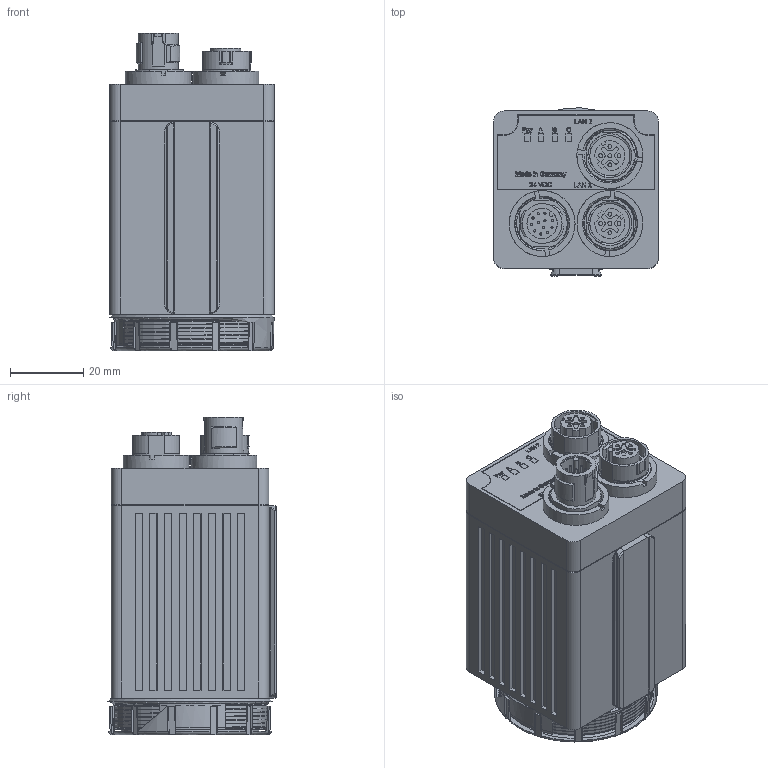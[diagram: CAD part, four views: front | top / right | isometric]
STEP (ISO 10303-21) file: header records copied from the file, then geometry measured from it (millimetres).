
FILE_DESCRIPTION(/* description */ (''),/* implementation_level */ '2;1');
FILE_NAME(/* name */ 'VISOR XE C-Mount.stp',/* time_stamp */ '2024-11-18T10:48:34+01:00',/* author */ ('SensoPart'),/* organization */ ('SensoPart'),/* preprocessor_version */ 'ST-DEVELOPER v19.2',/* originating_system */ 'Autodesk Inventor 2023',/* authorisation */ '');
FILE_SCHEMA (('AUTOMOTIVE_DESIGN { 1 0 10303 214 3 1 1 }'));
Products named in the file (1): GH-ENG-0044651
Bounding box: 45 x 45.92 x 86.78 mm (x, y, z)
Volume: 133381.4 mm3; surface area: 27158.2 mm2
Topology: 3 solids, 3 shells, 1185 faces, 3250 edges, 2176 vertices
Faces by surface type: plane 661, bspline 315, cylinder 152, cone 44, torus 9, sphere 4
Full cylindrical faces by diameter (mm): 0.6 x12, 1.05 x8, 1.1 x2, 8.3 x1, 9.45 x1, 9.6 x1, 10.9 x1, 10.95 x2, 12 x2, 18 x3, 21.3 x1, 24.536 x1, 40 x2, 42 x1
Entity records: 50926 total; most frequent: CARTESIAN_POINT 21989, ORIENTED_EDGE 6500, DIRECTION 4434, EDGE_CURVE 3250, VERTEX_POINT 2175, LINE 1872, VECTOR 1872, EDGE_LOOP 1305
